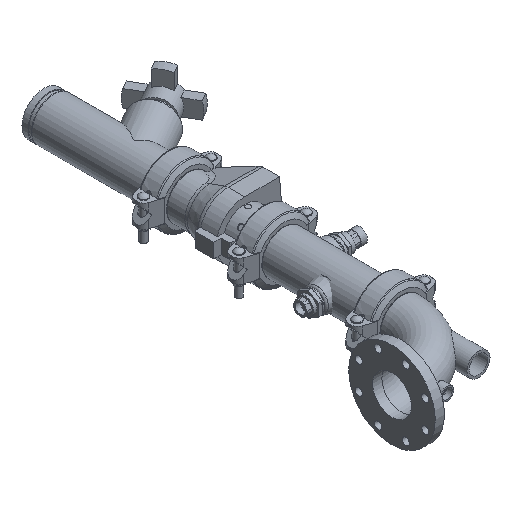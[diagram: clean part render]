
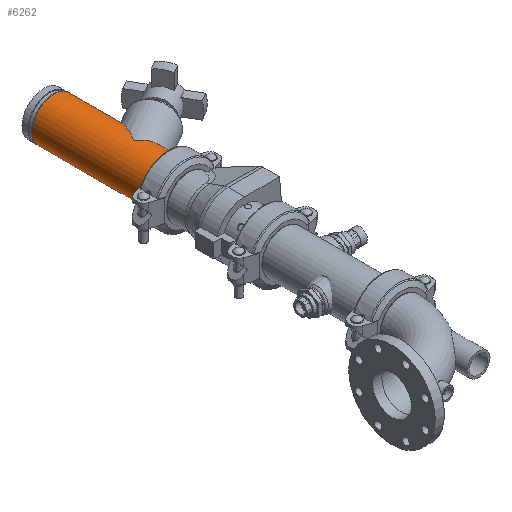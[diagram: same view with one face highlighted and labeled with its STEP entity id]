
A CAD part, isometric view. The second image highlights one B-rep face of the part: STEP entity #6262.
In plain terms, the highlighted cylindrical face has radius 57.15 mm (diameter 114.3 mm), a full revolution.
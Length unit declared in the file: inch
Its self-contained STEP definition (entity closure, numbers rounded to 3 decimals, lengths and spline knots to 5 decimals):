
#119=ELLIPSE('',#6831,4.5,2.25);
#120=ELLIPSE('',#6832,2.59808,2.25);
#121=ELLIPSE('',#6835,2.59808,2.25);
#122=ELLIPSE('',#6836,4.5,2.25);
#210=LINE('',#9644,#667);
#211=LINE('',#9650,#668);
#667=VECTOR('',#7707,2.25);
#668=VECTOR('',#7712,2.25);
#1095=CYLINDRICAL_SURFACE('',#6828,2.25);
#1315=FACE_OUTER_BOUND('',#1666,.T.);
#1666=EDGE_LOOP('',(#4054,#4055,#4056,#4057,#4058,#4059,#4060,#4061,#4062,
#4063,#4064,#4065));
#2098=CIRCLE('',#6829,2.25);
#2099=CIRCLE('',#6830,2.25);
#2100=CIRCLE('',#6833,2.25);
#2101=CIRCLE('',#6834,2.25);
#2476=VERTEX_POINT('',#9639);
#2477=VERTEX_POINT('',#9640);
#2478=VERTEX_POINT('',#9643);
#2479=VERTEX_POINT('',#9645);
#2480=VERTEX_POINT('',#9647);
#2481=VERTEX_POINT('',#9649);
#2482=VERTEX_POINT('',#9651);
#2483=VERTEX_POINT('',#9654);
#3099=EDGE_CURVE('',#2476,#2477,#2098,.T.);
#3100=EDGE_CURVE('',#2477,#2476,#2099,.T.);
#3101=EDGE_CURVE('',#2477,#2478,#210,.T.);
#3102=EDGE_CURVE('',#2478,#2479,#119,.T.);
#3103=EDGE_CURVE('',#2479,#2480,#120,.T.);
#3104=EDGE_CURVE('',#2480,#2481,#211,.T.);
#3105=EDGE_CURVE('',#2481,#2482,#2100,.T.);
#3106=EDGE_CURVE('',#2482,#2481,#2101,.T.);
#3107=EDGE_CURVE('',#2480,#2483,#121,.T.);
#3108=EDGE_CURVE('',#2483,#2478,#122,.T.);
#4054=ORIENTED_EDGE('',*,*,#3099,.F.);
#4055=ORIENTED_EDGE('',*,*,#3100,.F.);
#4056=ORIENTED_EDGE('',*,*,#3101,.T.);
#4057=ORIENTED_EDGE('',*,*,#3102,.T.);
#4058=ORIENTED_EDGE('',*,*,#3103,.T.);
#4059=ORIENTED_EDGE('',*,*,#3104,.T.);
#4060=ORIENTED_EDGE('',*,*,#3105,.T.);
#4061=ORIENTED_EDGE('',*,*,#3106,.T.);
#4062=ORIENTED_EDGE('',*,*,#3104,.F.);
#4063=ORIENTED_EDGE('',*,*,#3107,.T.);
#4064=ORIENTED_EDGE('',*,*,#3108,.T.);
#4065=ORIENTED_EDGE('',*,*,#3101,.F.);
#6262=ADVANCED_FACE('',(#1315),#1095,.T.);
#6828=AXIS2_PLACEMENT_3D('',#9638,#7701,#7702);
#6829=AXIS2_PLACEMENT_3D('',#9641,#7703,#7704);
#6830=AXIS2_PLACEMENT_3D('',#9642,#7705,#7706);
#6831=AXIS2_PLACEMENT_3D('',#9646,#7708,#7709);
#6832=AXIS2_PLACEMENT_3D('',#9648,#7710,#7711);
#6833=AXIS2_PLACEMENT_3D('',#9652,#7713,#7714);
#6834=AXIS2_PLACEMENT_3D('',#9653,#7715,#7716);
#6835=AXIS2_PLACEMENT_3D('',#9655,#7717,#7718);
#6836=AXIS2_PLACEMENT_3D('',#9656,#7719,#7720);
#7701=DIRECTION('center_axis',(1.,0.,0.));
#7702=DIRECTION('ref_axis',(0.,1.,0.));
#7703=DIRECTION('center_axis',(1.,0.,0.));
#7704=DIRECTION('ref_axis',(0.,0.,-1.));
#7705=DIRECTION('center_axis',(1.,0.,0.));
#7706=DIRECTION('ref_axis',(0.,0.,-1.));
#7707=DIRECTION('',(-1.,0.,0.));
#7708=DIRECTION('center_axis',(0.5,0.866,0.));
#7709=DIRECTION('ref_axis',(-0.866,0.5,0.));
#7710=DIRECTION('center_axis',(-0.866,0.5,0.));
#7711=DIRECTION('ref_axis',(-0.5,-0.866,0.));
#7712=DIRECTION('',(-1.,0.,0.));
#7713=DIRECTION('center_axis',(1.,0.,0.));
#7714=DIRECTION('ref_axis',(0.,0.,-1.));
#7715=DIRECTION('center_axis',(1.,0.,0.));
#7716=DIRECTION('ref_axis',(0.,0.,-1.));
#7717=DIRECTION('center_axis',(-0.866,0.5,0.));
#7718=DIRECTION('ref_axis',(-0.5,-0.866,0.));
#7719=DIRECTION('center_axis',(0.5,0.866,0.));
#7720=DIRECTION('ref_axis',(-0.866,0.5,0.));
#9638=CARTESIAN_POINT('Origin',(0.,0.,0.));
#9639=CARTESIAN_POINT('',(5.875,2.25,0.));
#9640=CARTESIAN_POINT('',(5.875,-2.25,0.));
#9641=CARTESIAN_POINT('Origin',(5.875,0.,0.));
#9642=CARTESIAN_POINT('Origin',(5.875,0.,0.));
#9643=CARTESIAN_POINT('',(1.35625,-2.25,0.));
#9644=CARTESIAN_POINT('',(0.,-2.25,0.));
#9645=CARTESIAN_POINT('',(-2.54086,0.,-2.25));
#9646=CARTESIAN_POINT('Origin',(-2.54086,0.,
0.));
#9647=CARTESIAN_POINT('',(-3.8399,-2.25,0.));
#9648=CARTESIAN_POINT('Origin',(-2.54086,0.,
0.));
#9649=CARTESIAN_POINT('',(-5.875,-2.25,0.));
#9650=CARTESIAN_POINT('',(0.,-2.25,0.));
#9651=CARTESIAN_POINT('',(-5.875,2.25,0.));
#9652=CARTESIAN_POINT('Origin',(-5.875,0.,0.));
#9653=CARTESIAN_POINT('Origin',(-5.875,0.,0.));
#9654=CARTESIAN_POINT('',(-2.54086,0.,2.25));
#9655=CARTESIAN_POINT('Origin',(-2.54086,0.,
0.));
#9656=CARTESIAN_POINT('Origin',(-2.54086,0.,
0.));
